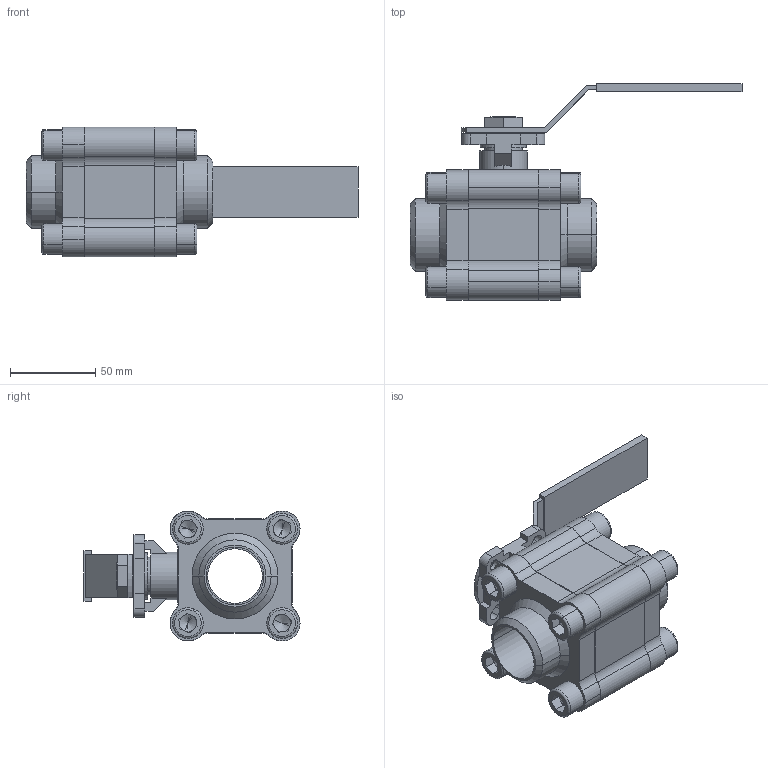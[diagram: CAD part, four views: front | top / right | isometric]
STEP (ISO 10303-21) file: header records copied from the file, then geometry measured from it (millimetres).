
FILE_DESCRIPTION (( 'STEP AP214' ), '1' );
FILE_NAME ('S33D DN32 BW HB.step', '2010-10-27T14:41:00', ( '' ), ( '' ), 'SwSTEP 2.0', 'SolidWorks 2010', '' );
FILE_SCHEMA (( 'AUTOMOTIVE_DESIGN' ));
Length unit declared in the file: millimetre
Products named in the file (5): S33D KK DN32 PN100; DIN 912 M12 x 30 --- 30N_DIN 912 M12 x 30 --- 30N; S33D Flens Buttweld DN32; Hendel S33D DN25; S33D DN32 BW HB
Assembly tree (12 placements, depth 2):
  S33D DN32 BW HB
    S33D Flens Buttweld DN32  x2
    DIN 912 M12 x 30 --- 30N_DIN 912 M12 x 30 --- 30N  x8
    Hendel S33D DN25
    S33D KK DN32 PN100
Bounding box: 194.45 x 126.53 x 76.14 mm (x, y, z)
Volume: 354101.9 mm3; surface area: 106438.1 mm2
Topology: 12 solids, 12 shells, 452 faces, 1102 edges, 680 vertices
Faces by surface type: plane 241, cylinder 139, cone 40, torus 32
Entity records: 7379 total; most frequent: DIRECTION 1284, CARTESIAN_POINT 1234, ORIENTED_EDGE 1192, EDGE_CURVE 596, AXIS2_PLACEMENT_3D 451, VERTEX_POINT 385, LINE 382, VECTOR 382
